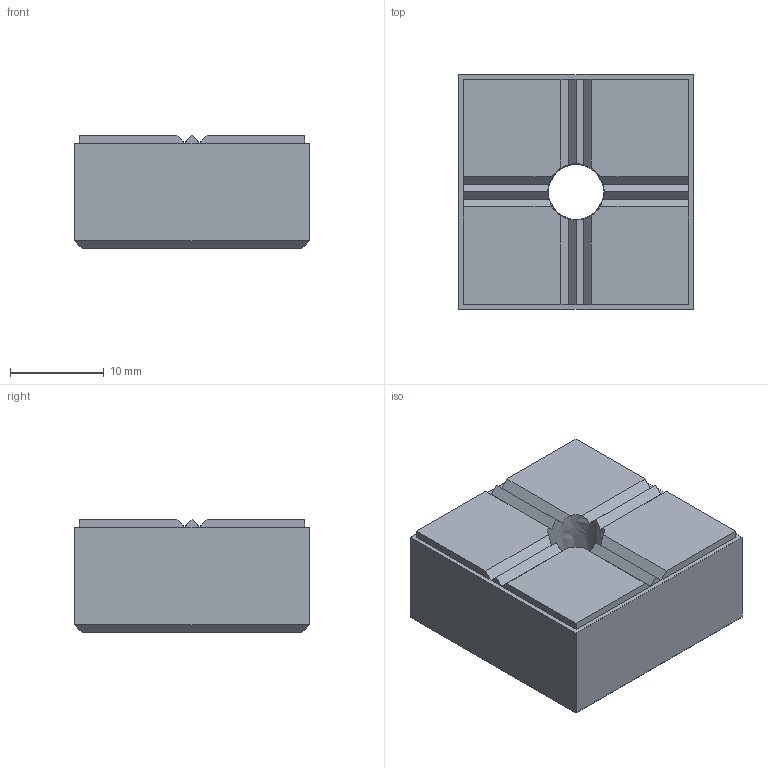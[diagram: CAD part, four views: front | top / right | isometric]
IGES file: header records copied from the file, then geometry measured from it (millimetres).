
Start section: SolidWorks IGES FILE using analytic representation for surfaces
Global section: file name: C:\WIX2\Positioning\3546\3546W008.igs; native system: SolidWorks 2003 by SolidWorks Corporation; preprocessor: Version 5.3; author: Joan; date: 030722.143911; units: millimetre
Bounding box: 25 x 25 x 12 mm (x, y, z)
Surface area: 2606.6 mm2 (no closed solid volume)
Topology: 0 solids, 0 shells, 44 faces, 266 edges, 266 vertices
Faces by surface type: bspline 42, revolution 2
